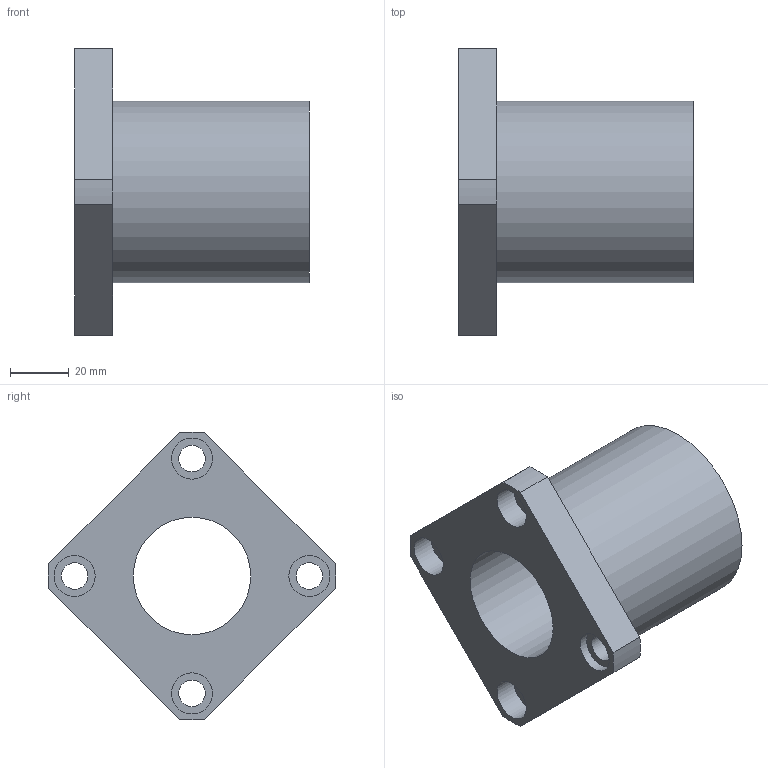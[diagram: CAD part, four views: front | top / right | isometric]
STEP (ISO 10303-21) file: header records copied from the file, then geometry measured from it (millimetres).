
FILE_DESCRIPTION( ( 'STEP AP203' ), '1' );
FILE_NAME( 'p:/temp/worker_8/temp/exporttempdir_3776_175_XmPFY/format_0/LMEK40UU.stp', '2020-05-07T05:47:29', ( 'License CC BY-ND 4.0' ), ( 'CADENAS' ), ' ', 'PARTsolutions', ' ' );
FILE_SCHEMA( ( 'CONFIG_CONTROL_DESIGN' ) );
Length unit declared in the file: millimetre
Products named in the file (1): _LMEK40UU
Bounding box: 80 x 97.96 x 97.96 mm (x, y, z)
Volume: 168218.3 mm3; surface area: 36816.8 mm2
Topology: 1 solids, 1 shells, 25 faces, 55 edges, 37 vertices
Faces by surface type: cylinder 14, plane 11
Full cylindrical faces by diameter (mm): 9 x4, 14 x4, 40 x1, 62 x1
Entity records: 710 total; most frequent: DIRECTION 124, CARTESIAN_POINT 106, ORIENTED_EDGE 88, AXIS2_PLACEMENT_3D 54, EDGE_LOOP 50, EDGE_CURVE 44, VERTEX_POINT 36, FACE_OUTER_BOUND 35
